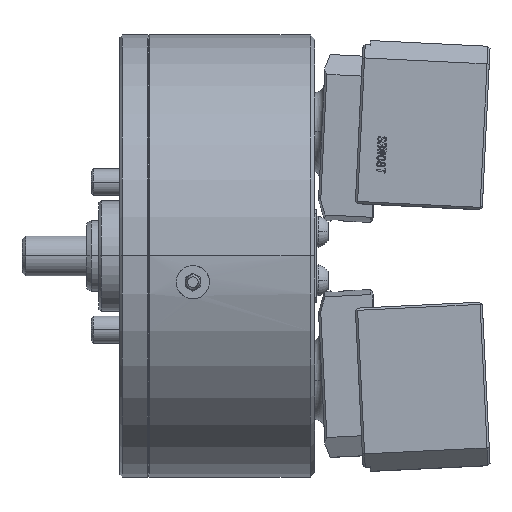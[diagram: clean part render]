
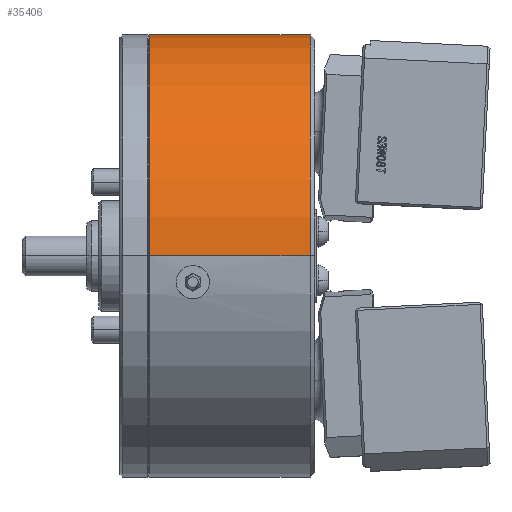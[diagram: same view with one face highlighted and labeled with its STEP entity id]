
A CAD part, top view. The second image highlights one B-rep face of the part: STEP entity #35406.
In plain terms, the highlighted cylindrical face has radius 100 mm (diameter 200 mm), a partial arc.
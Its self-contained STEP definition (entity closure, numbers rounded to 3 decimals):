
#542 = ORIENTED_EDGE ( 'NONE', *, *, #37395, .T. ) ;
#1521 = ORIENTED_EDGE ( 'NONE', *, *, #47943, .T. ) ;
#1586 = LINE ( 'NONE', #39781, #1637 ) ;
#1637 = VECTOR ( 'NONE', #26770, 1000. ) ;
#2549 = ORIENTED_EDGE ( 'NONE', *, *, #31209, .F. ) ;
#3190 = ORIENTED_EDGE ( 'NONE', *, *, #5269, .F. ) ;
#3824 = AXIS2_PLACEMENT_3D ( 'NONE', #14320, #14277, #14442 ) ;
#5269 = EDGE_CURVE ( 'NONE', #38985, #20084, #1586, .T. ) ;
#8575 = VERTEX_POINT ( 'NONE', #33103 ) ;
#9349 = CARTESIAN_POINT ( 'NONE',  ( -2., 0., -100. ) ) ;
#12073 = DIRECTION ( 'NONE',  ( 0., 0., -1. ) ) ;
#12118 = DIRECTION ( 'NONE',  ( 1., 0., 0. ) ) ;
#12173 = CARTESIAN_POINT ( 'NONE',  ( -74.6, 0., 0. ) ) ;
#13536 = CARTESIAN_POINT ( 'NONE',  ( 9.899, 0., 100. ) ) ;
#14277 = DIRECTION ( 'NONE',  ( 1., 0., 0. ) ) ;
#14320 = CARTESIAN_POINT ( 'NONE',  ( 9.899, 0., 0. ) ) ;
#14442 = DIRECTION ( 'NONE',  ( 0., 0., -1. ) ) ;
#17635 = CYLINDRICAL_SURFACE ( 'NONE', #3824, 100. ) ;
#18090 = CIRCLE ( 'NONE', #45954, 100. ) ;
#18884 = FACE_OUTER_BOUND ( 'NONE', #28710, .T. ) ;
#20084 = VERTEX_POINT ( 'NONE', #9349 ) ;
#22824 = AXIS2_PLACEMENT_3D ( 'NONE', #26055, #25994, #25980 ) ;
#25980 = DIRECTION ( 'NONE',  ( 0., 0., -1. ) ) ;
#25994 = DIRECTION ( 'NONE',  ( 1., 0., 0. ) ) ;
#26055 = CARTESIAN_POINT ( 'NONE',  ( -2., 0., 0. ) ) ;
#26770 = DIRECTION ( 'NONE',  ( 1., 0., 0. ) ) ;
#28568 = CIRCLE ( 'NONE', #22824, 100. ) ;
#28710 = EDGE_LOOP ( 'NONE', ( #542, #1521, #2549, #3190 ) ) ;
#29481 = VECTOR ( 'NONE', #46172, 1000. ) ;
#31209 = EDGE_CURVE ( 'NONE', #20084, #8575, #28568, .T. ) ;
#31402 = CARTESIAN_POINT ( 'NONE',  ( -74.6, 0., -100. ) ) ;
#33103 = CARTESIAN_POINT ( 'NONE',  ( -2., 0., 100. ) ) ;
#35406 = ADVANCED_FACE ( 'NONE', ( #18884 ), #17635, .T. ) ;
#37395 = EDGE_CURVE ( 'NONE', #38985, #52032, #18090, .T. ) ;
#38985 = VERTEX_POINT ( 'NONE', #31402 ) ;
#39781 = CARTESIAN_POINT ( 'NONE',  ( 9.899, 0., -100. ) ) ;
#40300 = LINE ( 'NONE', #13536, #29481 ) ;
#45954 = AXIS2_PLACEMENT_3D ( 'NONE', #12173, #12118, #12073 ) ;
#46172 = DIRECTION ( 'NONE',  ( 1., 0., 0. ) ) ;
#47943 = EDGE_CURVE ( 'NONE', #52032, #8575, #40300, .T. ) ;
#52032 = VERTEX_POINT ( 'NONE', #52966 ) ;
#52966 = CARTESIAN_POINT ( 'NONE',  ( -74.6, 0., 100. ) ) ;
